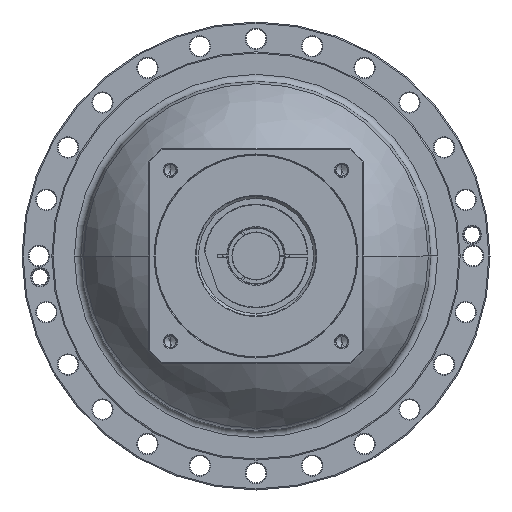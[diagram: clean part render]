
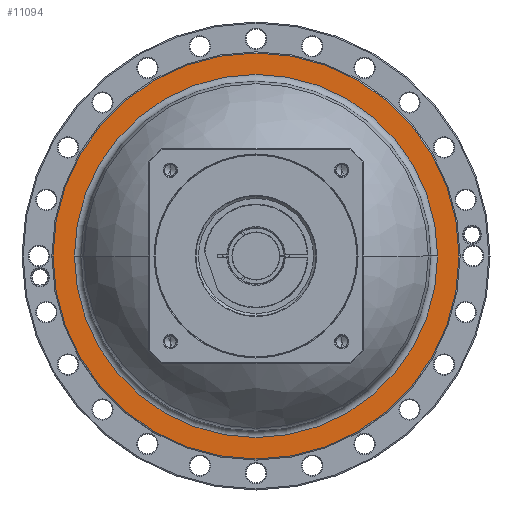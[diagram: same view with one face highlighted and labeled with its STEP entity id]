
A CAD part, left-side view. The second image highlights one B-rep face of the part: STEP entity #11094.
In plain terms, the highlighted planar face has unit normal (-1, 0, 0) as drawn and (1, 0, 0) by its records, which use the part's own axes.
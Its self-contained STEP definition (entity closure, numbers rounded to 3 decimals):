
#10543=CARTESIAN_POINT('',(-135.,0.,0.));
#10544=DIRECTION('',(-1.,0.,0.));
#10545=DIRECTION('',(0.,-1.,0.));
#10546=AXIS2_PLACEMENT_3D('',#10543,#10544,#10545);
#10548=CARTESIAN_POINT('',(-135.,0.,0.));
#10549=DIRECTION('',(-1.,0.,0.));
#10550=DIRECTION('',(0.,1.,0.));
#10551=AXIS2_PLACEMENT_3D('',#10548,#10549,#10550);
#10553=CARTESIAN_POINT('',(-135.,0.,0.));
#10554=DIRECTION('',(-1.,0.,0.));
#10555=DIRECTION('',(0.,-1.,0.));
#10556=AXIS2_PLACEMENT_3D('',#10553,#10554,#10555);
#10558=CARTESIAN_POINT('',(-135.,0.,0.));
#10559=DIRECTION('',(-1.,0.,0.));
#10560=DIRECTION('',(0.,1.,0.));
#10561=AXIS2_PLACEMENT_3D('',#10558,#10559,#10560);
#10683=CARTESIAN_POINT('',(-135.,-180.,0.));
#10684=CARTESIAN_POINT('',(-135.,180.,0.));
#10685=VERTEX_POINT('',#10683);
#10686=VERTEX_POINT('',#10684);
#10703=CARTESIAN_POINT('',(-135.,-161.,0.));
#10704=CARTESIAN_POINT('',(-135.,161.,0.));
#10705=VERTEX_POINT('',#10703);
#10706=VERTEX_POINT('',#10704);
#11079=CARTESIAN_POINT('',(-135.,0.,0.));
#11080=DIRECTION('',(1.,0.,0.));
#11081=DIRECTION('',(0.,-1.,0.));
#11082=AXIS2_PLACEMENT_3D('',#11079,#11080,#11081);
#11083=PLANE('',#11082);
#11085=ORIENTED_EDGE('',*,*,#11084,.T.);
#11087=ORIENTED_EDGE('',*,*,#11086,.T.);
#11088=EDGE_LOOP('',(#11085,#11087));
#11089=FACE_OUTER_BOUND('',#11088,.F.);
#11090=ORIENTED_EDGE('',*,*,#11059,.F.);
#11091=ORIENTED_EDGE('',*,*,#11073,.F.);
#11092=EDGE_LOOP('',(#11090,#11091));
#11093=FACE_BOUND('',#11092,.F.);
#11094=ADVANCED_FACE('',(#11089,#11093),#11083,.T.);
#10547=CIRCLE('',#10546,161.);
#10552=CIRCLE('',#10551,161.);
#10557=CIRCLE('',#10556,180.);
#10562=CIRCLE('',#10561,180.);
#11059=EDGE_CURVE('',#10705,#10706,#10547,.T.);
#11073=EDGE_CURVE('',#10706,#10705,#10552,.T.);
#11084=EDGE_CURVE('',#10685,#10686,#10557,.T.);
#11086=EDGE_CURVE('',#10686,#10685,#10562,.T.);
